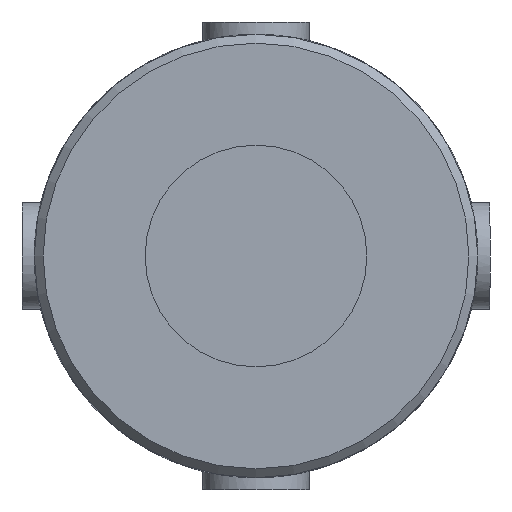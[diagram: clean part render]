
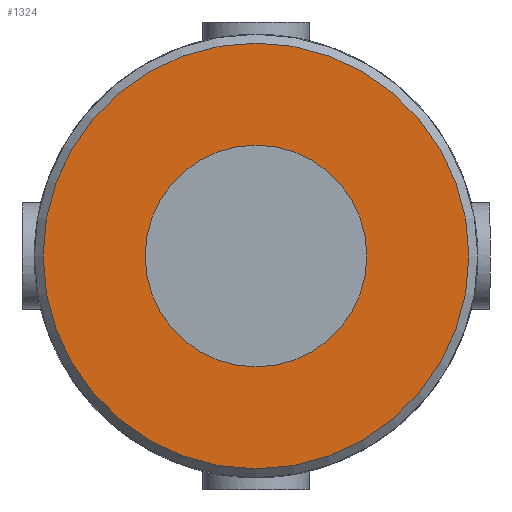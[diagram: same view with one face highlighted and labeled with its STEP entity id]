
A CAD part, front view. The second image highlights one B-rep face of the part: STEP entity #1324.
In plain terms, the highlighted planar face has unit normal (0, -1, 0).
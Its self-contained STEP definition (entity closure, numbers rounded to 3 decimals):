
#263=PLANE('',#1455);
#302=FACE_BOUND('',#479,.T.);
#368=FACE_OUTER_BOUND('',#478,.T.);
#478=EDGE_LOOP('',(#1149));
#479=EDGE_LOOP('',(#1150));
#546=CIRCLE('',#1450,12.5);
#548=CIRCLE('',#1453,24.);
#658=VERTEX_POINT('',#2639);
#660=VERTEX_POINT('',#2644);
#825=EDGE_CURVE('',#658,#658,#546,.T.);
#827=EDGE_CURVE('',#660,#660,#548,.T.);
#1149=ORIENTED_EDGE('',*,*,#827,.F.);
#1150=ORIENTED_EDGE('',*,*,#825,.T.);
#1324=ADVANCED_FACE('',(#368,#302),#263,.F.);
#1450=AXIS2_PLACEMENT_3D('',#2640,#1736,#1737);
#1453=AXIS2_PLACEMENT_3D('',#2645,#1742,#1743);
#1455=AXIS2_PLACEMENT_3D('',#2845,#1750,#1751);
#1736=DIRECTION('center_axis',(0.,1.,0.));
#1737=DIRECTION('ref_axis',(-1.,0.,0.));
#1742=DIRECTION('center_axis',(0.,1.,0.));
#1743=DIRECTION('ref_axis',(1.,0.,0.));
#1750=DIRECTION('center_axis',(0.,1.,0.));
#1751=DIRECTION('ref_axis',(0.,0.,1.));
#2639=CARTESIAN_POINT('',(12.5,-66.5,0.));
#2640=CARTESIAN_POINT('Origin',(0.,-66.5,0.));
#2644=CARTESIAN_POINT('',(-24.,-66.5,0.));
#2645=CARTESIAN_POINT('Origin',(0.,-66.5,0.));
#2845=CARTESIAN_POINT('Origin',(0.,-66.5,0.));
